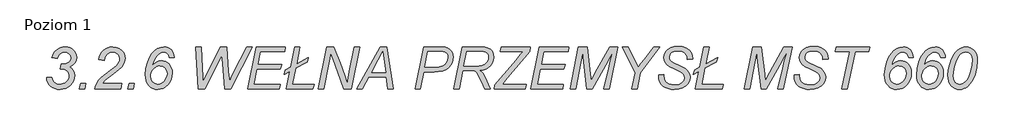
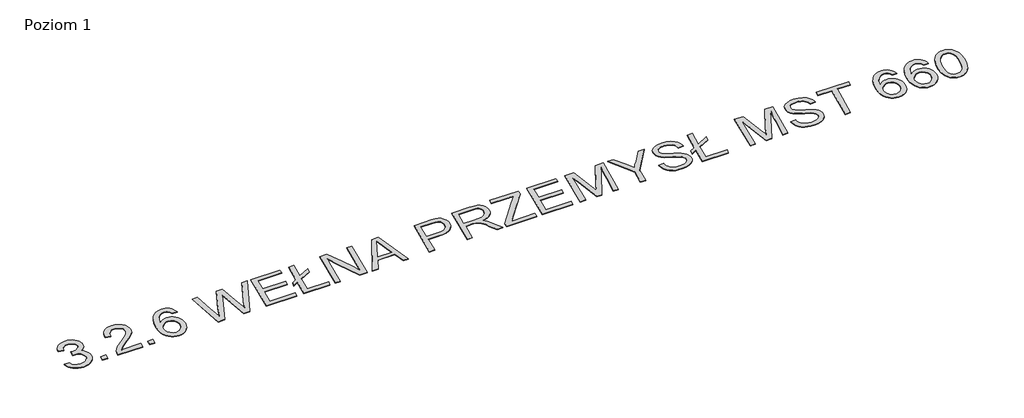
# One storey, part 2 of 2: 1 proxy.
"""IFC4 building model written with IfcOpenShell, lengths in millimetres."""

import ifcopenshell
import ifcopenshell.guid

model = None  # the IFC model being written
_history = None  # IfcOwnerHistory: only IFC2X3 demands one
_inside = {}  # id of a spatial element -> (the spatial element, [elements in it])
_under = {}  # id of a project, library or spatial element -> (it, [spatial elements below it])
_declared = {}  # id of a project -> (the project, [libraries it declares])
_typed = {}  # id of a type object -> (the type object, [elements of that type])
_made_of = {}  # id of a material, layer set ... -> (it, [elements and type objects made of it])


def new_model(schema):
    """Start an empty IFC model of exactly this schema.

    Asked for "IFC4X3", IfcOpenShell would pick the latest addendum, in which some entities
    have other attributes; the version numbers below select the first issue.
    IFC2X3 requires an IfcOwnerHistory on every rooted entity: one is made here for all.
    """
    global model, _history
    if schema == "IFC4X3":
        model = ifcopenshell.file(schema_version=(4, 3, 0, 0))
    else:
        model = ifcopenshell.file(schema=schema)
    _inside.clear()
    _under.clear()
    _declared.clear()
    _typed.clear()
    _made_of.clear()
    _history = None
    if model.schema == "IFC2X3":
        org = make("IfcOrganization", Name="unknown")
        user = make(
            "IfcPersonAndOrganization",
            ThePerson=make("IfcPerson", FamilyName="unknown"),
            TheOrganization=org,
        )
        app = make(
            "IfcApplication",
            ApplicationDeveloper=org,
            Version="unknown",
            ApplicationFullName="unknown",
            ApplicationIdentifier="unknown",
        )
        _history = make(
            "IfcOwnerHistory",
            OwningUser=user,
            OwningApplication=app,
            ChangeAction="ADDED",
            CreationDate=0,
        )
    return model


def make(cls, **values):
    """One entity of the class cls with the attributes given. An attribute that is None is left unset."""
    return model.create_entity(
        cls, **{name: value for name, value in values.items() if value is not None}
    )


def rooted(cls, **values):
    """An entity with a GlobalId (a new one), such as an element, a storey or a relation."""
    return make(cls, GlobalId=ifcopenshell.guid.new(), OwnerHistory=_history, **values)


def si_unit(unit_type, name, prefix=None):
    """IfcSIUnit, for example si_unit("LENGTHUNIT", "METRE", prefix="MILLI")."""
    return make("IfcSIUnit", UnitType=unit_type, Prefix=prefix, Name=name)


def assignment(units):
    """IfcUnitAssignment: the units of a project."""
    return None if units is None else make("IfcUnitAssignment", Units=units)


def point(xyz):
    """IfcCartesianPoint."""
    return None if xyz is None else make("IfcCartesianPoint", Coordinates=xyz)


def direction(xyz):
    """IfcDirection."""
    return None if xyz is None else make("IfcDirection", DirectionRatios=xyz)


def frame(location, z_axis=None, x_axis=None):
    """IfcAxis2Placement3D, a coordinate frame: its origin and axes. An axis left out is left unset."""
    return make(
        "IfcAxis2Placement3D",
        Location=point(location),
        Axis=direction(z_axis),
        RefDirection=direction(x_axis),
    )


def origin():
    """The frame at (0, 0, 0) with its axes left unset."""
    return frame((0.0, 0.0, 0.0))


def origin_with_axes():
    """The frame at (0, 0, 0) with the z axis (0, 0, 1) and the x axis (1, 0, 0) written out."""
    return frame((0.0, 0.0, 0.0), z_axis=(0.0, 0.0, 1.0), x_axis=(1.0, 0.0, 0.0))


def place(relative_to, where):
    """IfcLocalPlacement: puts the frame where relative to a parent placement (None: the world)."""
    return make(
        "IfcLocalPlacement", PlacementRelTo=relative_to, RelativePlacement=where
    )


def context(
    kind, dimensions, precision=None, world=None, true_north=None, identifier=None
):
    """IfcGeometricRepresentationContext, for example the 3D "Model" context."""
    return make(
        "IfcGeometricRepresentationContext",
        ContextIdentifier=identifier,
        ContextType=kind,
        CoordinateSpaceDimension=dimensions,
        Precision=precision,
        WorldCoordinateSystem=world,
        TrueNorth=true_north,
    )


def project(units=None, contexts=None):
    """IfcProject with its units and contexts."""
    return rooted(
        "IfcProject",
        Name="project",
        RepresentationContexts=contexts,
        UnitsInContext=assignment(units),
    )


def spatial(cls, under=None, at=None, **own):
    """A site, building, storey or space (cls), placed at a placement, below another one or the project."""
    s = rooted(cls, ObjectPlacement=at, **own)
    if under is not None:
        _under.setdefault(under.id(), (under, []))[1].append(s)
    return s


def polyline(points):
    """IfcPolyline through the points."""
    return make("IfcPolyline", Points=[point(p) for p in points])


def outline(outer, holes=None, kind="AREA"):
    """IfcArbitraryClosedProfileDef: a profile drawn as a closed curve; with holes, ...WithVoids."""
    if holes is None:
        return make("IfcArbitraryClosedProfileDef", ProfileType=kind, OuterCurve=outer)
    return make(
        "IfcArbitraryProfileDefWithVoids",
        ProfileType=kind,
        OuterCurve=outer,
        InnerCurves=holes,
    )


def extrude(swept, where, along, depth):
    """IfcExtrudedAreaSolid: the profile swept, set in the frame where, extruded along a direction by depth."""
    return make(
        "IfcExtrudedAreaSolid",
        SweptArea=swept,
        Position=where,
        ExtrudedDirection=direction(along),
        Depth=depth,
    )


def shape(context_of_items, identifier, shape_type, items):
    """IfcShapeRepresentation: the items that make up one representation, for example the "Body"."""
    return make(
        "IfcShapeRepresentation",
        ContextOfItems=context_of_items,
        RepresentationIdentifier=identifier,
        RepresentationType=shape_type,
        Items=items,
    )


def made_of(thing, what):
    """Note that an element or type object is made of a material, layer set ...; save() writes the relation."""
    if what is not None:
        _made_of.setdefault(what.id(), (what, []))[1].append(thing)
    return thing


def element(
    cls,
    number,
    at=None,
    inside=None,
    cuts=None,
    type_object=None,
    material=None,
    context=None,
    identifier="Body",
    shape_type=None,
    held_by="IfcProductDefinitionShape",
    body=None,
    shapes=None,
    **own,
):
    """One element of the class cls, such as IfcWall. Its Tag is "e" and its number.

    at: its placement. inside: the storey or other place that contains it. cuts: it is an
    opening in that element (IfcRelVoidsElement). A single representation is given by context,
    identifier, shape_type and body (its items); several are given by shapes. held_by: the class
    of the entity that holds the representations. save() writes the other relations.
    """
    e = rooted(cls, Tag="e%d" % number, ObjectPlacement=at, **own)
    if body is not None:
        shapes = [shape(context, identifier, shape_type, body)]
    if shapes is not None:
        e.Representation = make(held_by, Representations=shapes)
    if inside is not None:
        _inside.setdefault(inside.id(), (inside, []))[1].append(e)
    if cuts is not None:
        rooted(
            "IfcRelVoidsElement", RelatingBuildingElement=cuts, RelatedOpeningElement=e
        )
    if type_object is not None:
        _typed.setdefault(type_object.id(), (type_object, []))[1].append(e)
    return made_of(e, material)


def aggregate(whole, parts):
    """IfcRelAggregates: a whole, such as a stair, and the parts it consists of."""
    return rooted("IfcRelAggregates", RelatingObject=whole, RelatedObjects=parts)


def save(model, path):
    """Write the relations noted so far, then the file.

    IfcRelAggregates (storeys below a building ...), IfcRelContainedInSpatialStructure (elements
    in a storey), IfcRelDefinesByType, IfcRelAssociatesMaterial and IfcRelDeclares: one each for
    every whole, place, type object, material and project.
    """
    for whole, parts in _under.values():
        aggregate(whole, parts)
    for where, things in _inside.values():
        rooted(
            "IfcRelContainedInSpatialStructure",
            RelatedElements=things,
            RelatingStructure=where,
        )
    for kind, things in _typed.values():
        rooted("IfcRelDefinesByType", RelatedObjects=things, RelatingType=kind)
    for what, things in _made_of.values():
        rooted("IfcRelAssociatesMaterial", RelatedObjects=things, RelatingMaterial=what)
    for by, libraries in _declared.values():
        rooted("IfcRelDeclares", RelatingContext=by, RelatedDefinitions=libraries)
    model.write(path)


model = new_model("IFC4")

# Units and contexts
model_context = context("Model", 3, world=origin())
ifc_project = project(units=[si_unit("LENGTHUNIT", "METRE", prefix="MILLI")], contexts=[model_context])

# Site, building, storey
site = spatial("IfcSite", under=ifc_project)
building = spatial("IfcBuilding", under=site)
storey = spatial("IfcBuildingStorey", under=building, Name="Poziom 1", Elevation=0.0)

# Proxy
placement = place(None, origin())
element("IfcBuildingElementProxy", 1, Name="400 mm Arial", ObjectType="400 mm Arial", at=placement, inside=storey, context=model_context, shape_type="SweptSolid", body=[
    extrude(outline(polyline([(54935.3811978, 3434.5109693), (54984.3508948, 3434.5109693), (54993.2457811, 3406.3557846), (55008.8357432, 3387.501973), (55030.7382054, 3376.8496293), (55058.5705917, 3373.298848), (55093.1458758, 3379.2765943), (55108.5325946, 3386.748777), (55122.6520311, 3397.2098329), (55134.4521021, 3409.6017008), (55142.8807243, 3422.8663196), (55147.9378976, 3437.0036894), (55149.623622, 3452.0138102), (55144.7696921, 3476.6301691), (55130.2079023, 3496.536064), (55107.4685557, 3509.6990611), (55078.0819554, 3514.0867268), (55062.6832811, 3514.0867268), (55070.9086599, 3563.9172193), (55084.2031675, 3563.0564238), (55120.440265, 3567.2169352), (55146.7064819, 3579.6984693), (55162.6670643, 3598.2294825), (55167.9872584, 3620.5384314), (55163.4680823, 3641.0540564), (55149.9105539, 3658.0308556), (55129.8014156, 3669.4363954), (55105.6274099, 3673.238242), (55081.3577603, 3669.3527069), (55059.6226751, 3657.6961018), (55042.8132527, 3638.9379342), (55033.3205917, 3613.7477117), (54984.3508948, 3621.6861587), (54991.5929343, 3644.3328502), (55001.5548484, 3664.2596672), (55014.2366369, 3681.4666096), (55029.6383001, 3695.9536776), (55047.1680408, 3707.4399169), (55066.2340624, 3715.6443736), (55086.8363647, 3720.5670476), (55108.9749478, 3722.207939), (55131.9324821, 3720.4564593), (55152.6005396, 3715.2020204), (55170.9791204, 3706.4446222), (55187.0682243, 3694.1842647), (55200.1445441, 3679.3714096), (55209.4847726, 3662.9565185), (55215.0889097, 3644.9395914), (55216.9569554, 3625.3206283), (55212.9996874, 3597.3806426), (55201.1278834, 3573.2425033), (55181.1980775, 3552.9062107), (55153.0668039, 3536.3717647), (55173.1042092, 3520.961135), (55187.3073342, 3502.6572761), (55195.7718228, 3481.484099), (55198.593319, 3457.4655147), (55196.0617435, 3431.3905857), (55188.4670169, 3407.1089806), (55175.8091393, 3384.6206994), (55158.0881107, 3363.925742), (55136.8461895, 3346.6022335), (55113.6256343, 3334.2282988), (55088.4264452, 3326.803938), (55061.248622, 3324.3291511), (55035.2095595, 3326.2061634), (55011.8007054, 3331.8372003), (54991.0220595, 3341.2222619), (54972.873622, 3354.361348), (54957.9053455, 3370.6327732), (54946.6671826, 3389.4148518), (54939.1591334, 3410.7075838), (54935.3811978, 3434.5109693)])), origin_with_axes(), (0.0, 0.0, 1.0), 5.0),
    extrude(outline(polyline([(55242.2069554, 3330.4503632), (55253.6842281, 3379.4200602), (55302.6539251, 3379.4200602), (55292.1330917, 3330.4503632), (55242.2069554, 3330.4503632)])), origin_with_axes(), (0.0, 0.0, 1.0), 5.0),
    extrude(outline(polyline([(55388.3508948, 3330.4503632), (55397.4729355, 3362.7062818), (55409.5360273, 3389.2713859), (55425.2933664, 3412.3813528), (55445.4981485, 3434.2718594), (55531.8168039, 3502.8963859), (55584.8991902, 3545.1710071), (55602.569408, 3564.7062818), (55614.6444554, 3583.9068026), (55619.3788304, 3597.392598), (55620.9569554, 3612.0261208), (55616.067159, 3635.6382183), (55601.3977698, 3655.4006473), (55579.6029071, 3668.7788433), (55553.3366902, 3673.238242), (55526.9748294, 3668.7190658), (55504.1278834, 3655.1615374), (55486.0631343, 3631.6092174), (55474.0478645, 3597.1056662), (55425.0781675, 3603.6094541), (55430.3236398, 3629.6963386), (55438.9824052, 3652.8660829), (55451.0544637, 3673.1186871), (55466.5398152, 3690.4541511), (55484.7868855, 3704.3464333), (55505.1441003, 3714.269492), (55527.6114594, 3720.2233272), (55552.1889629, 3722.207939), (55584.8155018, 3718.6810687), (55614.2140576, 3708.1004579), (55638.5434847, 3691.1475696), (55655.9626372, 3668.503867), (55666.4356485, 3642.5963149), (55669.9266523, 3615.8518783), (55668.1572395, 3596.238893), (55662.8490008, 3576.996528), (55654.0019364, 3558.1247832), (55641.6160463, 3539.6236587), (55607.327694, 3508.0611587), (55539.2770311, 3455.8395677), (55484.9990955, 3411.8433556), (55458.1709705, 3379.4200602), (55639.3205917, 3379.4200602), (55629.6605539, 3330.4503632), (55388.3508948, 3330.4503632)])), origin_with_axes(), (0.0, 0.0, 1.0), 5.0),
    extrude(outline(polyline([(55695.1766523, 3330.4503632), (55706.6539251, 3379.4200602), (55755.623622, 3379.4200602), (55745.1027887, 3330.4503632), (55695.1766523, 3330.4503632)])), origin_with_axes(), (0.0, 0.0, 1.0), 5.0),
    extrude(outline(polyline([(55925.3916145, 3551.1009314), (55945.9072395, 3569.7514996), (55966.3272205, 3583.0460071), (55986.6037357, 3591.0083651), (56006.6889629, 3593.6624844), (56028.238738, 3591.7466167), (56047.8397679, 3585.9990138), (56065.4920524, 3576.4196755), (56081.1955917, 3563.0086018), (56094.0836126, 3546.351612), (56103.2893417, 3527.0345251), (56108.8127792, 3505.0573412), (56110.6539251, 3480.4200602), (56107.9101396, 3448.0924087), (56099.678783, 3418.1558556), (56085.9598555, 3390.6104011), (56066.7533569, 3365.456045), (56046.79964, 3347.4630289), (56024.8134895, 3334.6108746), (56000.7949052, 3326.8995819), (55974.7438872, 3324.3291511), (55951.1377674, 3326.5468949), (55929.5760368, 3333.2001265), (55910.0586954, 3344.2888457), (55892.5857432, 3359.8130526), (55878.1913304, 3379.4379934), (55867.9096069, 3402.8289143), (55861.7405728, 3429.9858154), (55859.6842281, 3460.9086965), (55864.9685557, 3520.6383367), (55880.8215387, 3582.3764996), (55899.0895311, 3626.2651123), (55921.1832811, 3661.7131473), (55945.9431059, 3688.7923376), (55972.2093228, 3707.5744162), (56000.9622821, 3718.5495583), (56033.1823342, 3722.207939), (56052.618976, 3720.6238362), (56070.1845832, 3715.871528), (56085.8791559, 3707.9510142), (56099.702694, 3696.862295), (56111.2008888, 3682.8205692), (56119.9194317, 3666.0410355), (56125.8583226, 3646.5236942), (56129.0175614, 3624.268545), (56084.3518417, 3624.268545), (56077.8360984, 3646.5894494), (56065.9403834, 3661.7131473), (56049.7646021, 3670.3569683), (56030.4086599, 3673.238242), (56008.243177, 3669.1494636), (55985.9342281, 3656.8831283), (55965.1316713, 3636.5946577), (55947.4853645, 3608.439473), (55933.927836, 3578.0605668), (55925.3916145, 3551.1009314)]), holes=[polyline([(55908.6539251, 3443.7884314), (55913.7589203, 3416.3266653), (55929.0739061, 3393.6231852), (55950.8209468, 3378.3799323), (55975.2221069, 3373.298848), (55993.8128976, 3376.3953206), (56013.4318607, 3385.6847382), (56032.0465624, 3401.2986113), (56047.624569, 3423.3684503), (56058.1693133, 3448.6064948), (56061.6842281, 3473.7249844), (56056.8063872, 3502.7409645), (56042.1728645, 3525.3248897), (56020.6529781, 3539.850813), (55995.1160463, 3544.6927874), (55979.4752733, 3542.9263634), (55964.4023862, 3537.6270914), (55935.9602698, 3516.4300033), (55924.013744, 3501.2913611), (55915.4805112, 3484.1382183), (55910.3605716, 3464.9705751), (55908.6539251, 3443.7884314)])]), origin_with_axes(), (0.0, 0.0, 1.0), 5.0),
    extrude(outline(polyline([(56355.5024099, 3330.4503632), (56331.0175614, 3722.207939), (56379.9872584, 3722.207939), (56391.1775993, 3527.0943026), (56395.4815766, 3452.205098), (56396.8205917, 3428.1984693), (56401.4115008, 3397.7836965), (56446.842372, 3497.3490374), (56561.6150993, 3722.207939), (56618.7145311, 3722.207939), (56636.0260842, 3492.5668405), (56646.2599857, 3397.7836965), (56661.7543039, 3435.3717647), (56692.3603645, 3496.392598), (56805.9853645, 3722.207939), (56860.5024099, 3722.207939), (56656.5895311, 3330.4503632), (56600.3508948, 3330.4503632), (56581.7959705, 3566.7865374), (56572.8054402, 3642.6321814), (56546.8859326, 3585.6283935), (56416.4275993, 3330.4503632), (56355.5024099, 3330.4503632)])), origin_with_axes(), (0.0, 0.0, 1.0), 5.0),
    extrude(outline(polyline([(56814.593319, 3330.4503632), (56894.1690766, 3722.207939), (57169.623622, 3722.207939), (57163.406766, 3679.3594541), (56935.2003266, 3679.3594541), (56910.3329023, 3556.9352117), (57132.8963493, 3556.9352117), (57120.6539251, 3514.0867268), (56901.6293039, 3514.0867268), (56873.031766, 3373.298848), (57118.5497584, 3373.298848), (57109.3679402, 3330.4503632), (56814.593319, 3330.4503632)])), origin_with_axes(), (0.0, 0.0, 1.0), 5.0),
    extrude(outline(polyline([(57208.7419932, 3493.0450602), (57157.3811978, 3465.1170299), (57169.623622, 3507.9655147), (57217.063016, 3533.7893783), (57255.3205917, 3722.207939), (57305.0554402, 3722.207939), (57272.9190766, 3564.0128632), (57383.8660463, 3624.268545), (57371.623622, 3581.4200602), (57264.6936978, 3523.364189), (57234.1832811, 3373.298848), (57438.9569554, 3373.298848), (57426.7145311, 3330.4503632), (57175.7448342, 3330.4503632), (57208.7419932, 3493.0450602)])), origin_with_axes(), (0.0, 0.0, 1.0), 5.0),
    extrude(outline(polyline([(57475.6842281, 3330.4503632), (57555.2599857, 3722.207939), (57622.593319, 3722.207939), (57681.8925614, 3570.612295), (57724.9323342, 3453.831045), (57746.0696448, 3379.4200602), (57767.6851751, 3490.5583177), (57812.7334705, 3722.207939), (57862.3726751, 3722.207939), (57786.2400993, 3330.4503632), (57713.9332811, 3330.4503632), (57632.9228645, 3555.5005526), (57593.4219175, 3665.0128632), (57573.8149099, 3568.3168405), (57525.4190766, 3330.4503632), (57475.6842281, 3330.4503632)])), origin_with_axes(), (0.0, 0.0, 1.0), 5.0),
    extrude(outline(polyline([(57834.6359326, 3330.4503632), (58053.8518417, 3722.207939), (58115.8291145, 3722.207939), (58177.5194554, 3330.4503632), (58128.0715387, 3330.4503632), (58112.3859326, 3440.6321814), (57949.313016, 3440.6321814), (57889.5355539, 3330.4503632), (57834.6359326, 3330.4503632)]), holes=[polyline([(57974.6586599, 3483.4806662), (58106.3603645, 3483.4806662), (58092.5876372, 3581.4200602), (58078.623622, 3679.3594541), (58035.4882054, 3599.7836965), (57974.6586599, 3483.4806662)])]), origin_with_axes(), (0.0, 0.0, 1.0), 5.0),
    extrude(outline(polyline([(58381.623622, 3330.4503632), (58460.8168039, 3722.207939), (58624.0810084, 3722.207939), (58661.1669459, 3719.7690185), (58687.6842281, 3712.4522571), (58707.0760368, 3699.2294825), (58722.7855539, 3679.0725223), (58733.1868323, 3654.0138102), (58736.6539251, 3626.0857799), (58734.1791381, 3601.5889759), (58726.7547773, 3576.6856852), (58715.5524809, 3553.7789617), (58701.7438872, 3535.2718594), (58686.5365008, 3520.9730905), (58671.1378266, 3510.691367), (58637.9493796, 3498.4011208), (58600.0504686, 3491.801689), (58561.7211599, 3489.6018783), (58463.5904781, 3489.6018783), (58431.4541145, 3330.4503632), (58381.623622, 3330.4503632)]), holes=[polyline([(58472.2940766, 3532.4503632), (58560.2865008, 3532.4503632), (58604.6533332, 3535.1762155), (58635.4148152, 3543.3537723), (58656.9227461, 3557.1145441), (58673.5289251, 3576.5900412), (58684.1454023, 3599.6043641), (58687.6842281, 3623.9816132), (58685.7713493, 3641.5322761), (58680.0327129, 3655.5441132), (58670.8030728, 3666.172546), (58658.4171826, 3673.5729958), (58638.0450235, 3677.9128395), (58604.8565766, 3679.3594541), (58502.0393417, 3679.3594541), (58472.2940766, 3532.4503632)])]), origin_with_axes(), (0.0, 0.0, 1.0), 5.0),
    extrude(outline(polyline([(58742.7751372, 3330.4503632), (58822.3508948, 3722.207939), (58987.8149099, 3722.207939), (59030.8666381, 3720.1276833), (59062.0824289, 3713.8869162), (59084.6543985, 3701.9075128), (59101.7746637, 3682.611348), (59112.5704734, 3656.6679295), (59116.1690766, 3624.7467647), (59114.2322868, 3601.349866), (59108.4219175, 3580.033223), (59098.7379686, 3560.7968357), (59085.1804402, 3543.6407041), (59067.3010013, 3528.9414262), (59044.6513209, 3517.0755999), (59017.231399, 3508.0432254), (58985.0412357, 3501.8443026), (59003.7635368, 3487.5216227), (59017.2732432, 3473.4380526), (59036.4259421, 3438.2171719), (59051.4181296, 3401.800742), (59085.467372, 3330.4503632), (59032.0024099, 3330.4503632), (58997.7618796, 3402.1833177), (58982.6262262, 3438.5758367), (58965.529872, 3469.707939), (58951.9364771, 3486.0989191), (58937.7453076, 3495.6752685), (58918.7480302, 3500.3020441), (58890.7363114, 3501.8443026), (58827.3243796, 3501.8443026), (58792.5099857, 3330.4503632), (58742.7751372, 3330.4503632)]), holes=[polyline([(58836.0279781, 3544.6927874), (58911.1084705, 3544.6927874), (58978.9200235, 3544.6927874), (59005.879659, 3549.6662723), (59027.4593228, 3558.4655147), (59044.2328787, 3571.0307373), (59056.7741902, 3587.3021624), (59064.5930823, 3606.108152), (59067.1993796, 3626.2770677), (59065.2147679, 3642.7397808), (59059.2609326, 3656.9309503), (59050.0791145, 3667.8941369), (59038.4105539, 3674.6729011), (59020.9794459, 3678.1878158), (58994.5099857, 3679.3594541), (58863.3821448, 3679.3594541), (58836.0279781, 3544.6927874)])]), origin_with_axes(), (0.0, 0.0, 1.0), 5.0),
    extrude(outline(polyline([(59122.2902887, 3330.4503632), (59128.4115008, 3367.1776359), (59325.2467281, 3601.5052874), (59366.1823342, 3649.9967647), (59390.7628266, 3679.3594541), (59355.6615008, 3679.3594541), (59342.6539251, 3679.3594541), (59326.968319, 3679.3594541), (59311.5696448, 3679.3594541), (59178.3376372, 3679.3594541), (59187.6150993, 3722.207939), (59458.9569554, 3722.207939), (59453.8878266, 3681.176689), (59243.375516, 3430.6852117), (59195.1709705, 3373.298848), (59210.0914251, 3373.298848), (59419.7429402, 3373.298848), (59410.4654781, 3330.4503632), (59122.2902887, 3330.4503632)])), origin_with_axes(), (0.0, 0.0, 1.0), 5.0),
    extrude(outline(polyline([(59465.0781675, 3330.4503632), (59544.6539251, 3722.207939), (59820.1084705, 3722.207939), (59813.8916145, 3679.3594541), (59585.6851751, 3679.3594541), (59560.8177508, 3556.9352117), (59783.3811978, 3556.9352117), (59771.1387735, 3514.0867268), (59552.1141523, 3514.0867268), (59523.5166145, 3373.298848), (59769.0346069, 3373.298848), (59759.8527887, 3330.4503632), (59465.0781675, 3330.4503632)])), origin_with_axes(), (0.0, 0.0, 1.0), 5.0),
    extrude(outline(polyline([(59831.6813872, 3330.4503632), (59908.1008948, 3722.207939), (59991.5980539, 3722.207939), (60021.2476751, 3468.9427874), (60028.0383948, 3404.7657041), (60067.9219175, 3482.8111587), (60200.3887735, 3722.207939), (60277.8603645, 3722.207939), (60194.7457811, 3330.4503632), (60144.5327129, 3330.4503632), (60190.5374478, 3518.6776359), (60205.7209232, 3590.6975223), (60231.3774099, 3673.238242), (60204.0710652, 3630.7484219), (60180.686122, 3587.2543405), (60038.4635842, 3330.4503632), (59988.250516, 3330.4503632), (59958.8878266, 3581.611348), (59948.1757054, 3673.238242), (59929.812069, 3578.8376738), (59881.3205917, 3330.4503632), (59831.6813872, 3330.4503632)])), origin_with_axes(), (0.0, 0.0, 1.0), 5.0),
    extrude(outline(polyline([(60407.7448342, 3330.4503632), (60438.1596069, 3480.4200602), (60319.8480539, 3722.207939), (60373.4086599, 3722.207939), (60430.7950235, 3609.1568026), (60467.5222963, 3529.9636208), (60490.6442186, 3565.973564), (60523.4740008, 3604.7571814), (60611.3707811, 3722.207939), (60670.5743796, 3722.207939), (60487.0336599, 3476.4986587), (60457.4796826, 3330.4503632), (60407.7448342, 3330.4503632)])), origin_with_axes(), (0.0, 0.0, 1.0), 5.0),
    extrude(outline(polyline([(60658.7145311, 3458.9958177), (60707.6842281, 3465.1170299), (60707.1103645, 3450.9617268), (60709.6927508, 3428.5093121), (60717.4399099, 3408.017598), (60731.1409042, 3390.7180005), (60751.5847963, 3377.8419352), (60777.6238588, 3369.8437107), (60808.1103645, 3367.1776359), (60849.15357, 3372.3424087), (60865.523628, 3378.7983746), (60879.1259895, 3387.8367268), (60897.4537593, 3409.9543878), (60903.563016, 3434.989189), (60900.358944, 3452.6594068), (60890.7467281, 3468.7514996), (60866.4531675, 3486.3499844), (60819.5876372, 3509.3045299), (60757.9929402, 3539.9105905), (60735.5644364, 3557.987295), (60719.9266523, 3577.5943026), (60710.7448342, 3599.4250318), (60707.6842281, 3624.1729011), (60711.6654071, 3652.770439), (60723.608944, 3678.4986587), (60743.2159516, 3699.9109456), (60770.1875425, 3715.5606852), (60802.8140813, 3725.1370346), (60839.3859326, 3728.3291511), (60881.7801088, 3724.2284172), (60916.9531675, 3711.9262155), (60944.1877792, 3692.7854721), (60962.7666145, 3668.1691132), (60973.4548247, 3641.4366321), (60977.0175614, 3615.9475223), (60977.0175614, 3607.7221435), (60928.0478645, 3603.6094541), (60925.2741902, 3630.676689), (60918.7106249, 3646.4459835), (60909.3494743, 3659.5133367), (60896.5810084, 3670.081992), (60879.795497, 3678.3551927), (60859.8896021, 3683.6992979), (60837.7599857, 3685.4806662), (60801.3674667, 3680.6506473), (60786.5785226, 3674.6131236), (60774.061122, 3666.1605905), (60761.0057243, 3649.0164143), (60756.6539251, 3627.0422193), (60758.4592044, 3613.3651359), (60763.8750425, 3601.2183556), (60774.0013446, 3589.9323708), (60789.938016, 3578.8376738), (60853.5412357, 3548.1359693), (60909.779872, 3518.8689238), (60927.9761315, 3503.2311397), (60941.438016, 3484.6283935), (60949.7590387, 3463.1563291), (60952.5327129, 3438.9105905), (60947.8222489, 3408.4599513), (60933.6908569, 3380.4243215), (60911.2503976, 3356.6448471), (60881.6127319, 3338.9626738), (60845.973409, 3327.9875318), (60805.5279781, 3324.3291511), (60774.6439523, 3326.1583414), (60746.7428218, 3331.6459124), (60721.8245868, 3340.7918641), (60699.889247, 3353.5961965), (60681.9829083, 3371.1588149), (60669.151676, 3394.5796246), (60661.3955503, 3423.8586255), (60658.7145311, 3458.9958177)])), origin_with_axes(), (0.0, 0.0, 1.0), 5.0),
    extrude(outline(polyline([(61034.499569, 3493.0450602), (60983.1387735, 3465.1170299), (60995.3811978, 3507.9655147), (61042.8205917, 3533.7893783), (61081.0781675, 3722.207939), (61130.813016, 3722.207939), (61098.6766523, 3564.0128632), (61209.623622, 3624.268545), (61197.3811978, 3581.4200602), (61090.4512735, 3523.364189), (61059.9408569, 3373.298848), (61264.7145311, 3373.298848), (61252.4721069, 3330.4503632), (61001.5024099, 3330.4503632), (61034.499569, 3493.0450602)])), origin_with_axes(), (0.0, 0.0, 1.0), 5.0),
    extrude(outline(polyline([(61459.9238114, 3330.4503632), (61536.343319, 3722.207939), (61619.8404781, 3722.207939), (61649.4900993, 3468.9427874), (61656.280819, 3404.7657041), (61696.1643417, 3482.8111587), (61828.6311978, 3722.207939), (61906.1027887, 3722.207939), (61822.9882054, 3330.4503632), (61772.7751372, 3330.4503632), (61818.779872, 3518.6776359), (61833.9633474, 3590.6975223), (61859.6198342, 3673.238242), (61832.3134895, 3630.7484219), (61808.9285463, 3587.2543405), (61666.7060084, 3330.4503632), (61616.4929402, 3330.4503632), (61587.1302508, 3581.611348), (61576.4181296, 3673.238242), (61558.0544932, 3578.8376738), (61509.563016, 3330.4503632), (61459.9238114, 3330.4503632)])), origin_with_axes(), (0.0, 0.0, 1.0), 5.0),
    extrude(outline(polyline([(61925.8054402, 3458.9958177), (61974.7751372, 3465.1170299), (61974.2012735, 3450.9617268), (61976.7836599, 3428.5093121), (61984.530819, 3408.017598), (61998.2318133, 3390.7180005), (62018.6757054, 3377.8419352), (62044.7147679, 3369.8437107), (62075.2012735, 3367.1776359), (62116.244479, 3372.3424087), (62132.614537, 3378.7983746), (62146.2168985, 3387.8367268), (62164.5446684, 3409.9543878), (62170.6539251, 3434.989189), (62167.4498531, 3452.6594068), (62157.8376372, 3468.7514996), (62133.5440766, 3486.3499844), (62086.6785463, 3509.3045299), (62025.0838493, 3539.9105905), (62002.6553455, 3557.987295), (61987.0175614, 3577.5943026), (61977.8357432, 3599.4250318), (61974.7751372, 3624.1729011), (61978.7563162, 3652.770439), (61990.6998531, 3678.4986587), (62010.3068607, 3699.9109456), (62037.2784516, 3715.5606852), (62069.9049904, 3725.1370346), (62106.4768417, 3728.3291511), (62148.8710179, 3724.2284172), (62184.0440766, 3711.9262155), (62211.2786883, 3692.7854721), (62229.8575235, 3668.1691132), (62240.5457338, 3641.4366321), (62244.1084705, 3615.9475223), (62244.1084705, 3607.7221435), (62195.1387735, 3603.6094541), (62192.3650993, 3630.676689), (62185.801534, 3646.4459835), (62176.4403834, 3659.5133367), (62163.6719175, 3670.081992), (62146.8864061, 3678.3551927), (62126.9805112, 3683.6992979), (62104.8508948, 3685.4806662), (62068.4583758, 3680.6506473), (62053.6694317, 3674.6131236), (62041.1520311, 3666.1605905), (62028.0966334, 3649.0164143), (62023.7448342, 3627.0422193), (62025.5501135, 3613.3651359), (62030.9659516, 3601.2183556), (62041.0922537, 3589.9323708), (62057.0289251, 3578.8376738), (62120.6321448, 3548.1359693), (62176.8707811, 3518.8689238), (62195.0670406, 3503.2311397), (62208.5289251, 3484.6283935), (62216.8499478, 3463.1563291), (62219.623622, 3438.9105905), (62214.913158, 3408.4599513), (62200.781766, 3380.4243215), (62178.3413067, 3356.6448471), (62148.703641, 3338.9626738), (62113.0643181, 3327.9875318), (62072.6188872, 3324.3291511), (62041.7348614, 3326.1583414), (62013.8337309, 3331.6459124), (61988.9154959, 3340.7918641), (61966.9801561, 3353.5961965), (61949.0738173, 3371.1588149), (61936.2425851, 3394.5796246), (61928.4864594, 3423.8586255), (61925.8054402, 3458.9958177)])), origin_with_axes(), (0.0, 0.0, 1.0), 5.0),
    extrude(outline(polyline([(62372.6539251, 3330.4503632), (62446.7779781, 3679.3594541), (62311.4418039, 3679.3594541), (62320.719266, 3722.207939), (62632.8054402, 3722.207939), (62623.5279781, 3679.3594541), (62496.6084705, 3679.3594541), (62422.4844175, 3330.4503632), (62372.6539251, 3330.4503632)])), origin_with_axes(), (0.0, 0.0, 1.0), 5.0),
    extrude(outline(polyline([(62836.2400993, 3551.1009314), (62856.7557243, 3569.7514996), (62877.1757054, 3583.0460071), (62897.4522205, 3591.0083651), (62917.5374478, 3593.6624844), (62939.0872229, 3591.7466167), (62958.6882527, 3585.9990138), (62976.3405373, 3576.4196755), (62992.0440766, 3563.0086018), (63004.9320974, 3546.351612), (63014.1378266, 3527.0345251), (63019.6612641, 3505.0573412), (63021.5024099, 3480.4200602), (63018.7586244, 3448.0924087), (63010.5272679, 3418.1558556), (62996.8083403, 3390.6104011), (62977.6018417, 3365.456045), (62957.6481249, 3347.4630289), (62935.6619743, 3334.6108746), (62911.64339, 3326.8995819), (62885.592372, 3324.3291511), (62861.9862522, 3326.5468949), (62840.4245217, 3333.2001265), (62820.9071803, 3344.2888457), (62803.4342281, 3359.8130526), (62789.0398152, 3379.4379934), (62778.7580917, 3402.8289143), (62772.5890576, 3429.9858154), (62770.5327129, 3460.9086965), (62775.8170406, 3520.6383367), (62791.6700235, 3582.3764996), (62809.938016, 3626.2651123), (62832.031766, 3661.7131473), (62856.7915908, 3688.7923376), (62883.0578076, 3707.5744162), (62911.8107669, 3718.5495583), (62944.030819, 3722.207939), (62963.4674608, 3720.6238362), (62981.0330681, 3715.871528), (62996.7276407, 3707.9510142), (63010.5511789, 3696.862295), (63022.0493737, 3682.8205692), (63030.7679165, 3666.0410355), (63036.7068074, 3646.5236942), (63039.8660463, 3624.268545), (62995.2003266, 3624.268545), (62988.6845832, 3646.5894494), (62976.7888682, 3661.7131473), (62960.613087, 3670.3569683), (62941.2571448, 3673.238242), (62919.0916618, 3669.1494636), (62896.7827129, 3656.8831283), (62875.9801561, 3636.5946577), (62858.3338493, 3608.439473), (62844.7763209, 3578.0605668), (62836.2400993, 3551.1009314)]), holes=[polyline([(62819.5024099, 3443.7884314), (62824.6074052, 3416.3266653), (62839.922391, 3393.6231852), (62861.6694317, 3378.3799323), (62886.0705917, 3373.298848), (62904.6613825, 3376.3953206), (62924.2803455, 3385.6847382), (62942.8950472, 3401.2986113), (62958.4730539, 3423.3684503), (62969.0177982, 3448.6064948), (62972.5327129, 3473.7249844), (62967.654872, 3502.7409645), (62953.0213493, 3525.3248897), (62931.5014629, 3539.850813), (62905.9645311, 3544.6927874), (62890.3237582, 3542.9263634), (62875.2508711, 3537.6270914), (62846.8087546, 3516.4300033), (62834.8622288, 3501.2913611), (62826.3289961, 3484.1382183), (62821.2090565, 3464.9705751), (62819.5024099, 3443.7884314)])]), origin_with_axes(), (0.0, 0.0, 1.0), 5.0),
    extrude(outline(polyline([(63136.1794932, 3551.1009314), (63156.6951182, 3569.7514996), (63177.1150993, 3583.0460071), (63197.3916145, 3591.0083651), (63217.4768417, 3593.6624844), (63239.0266168, 3591.7466167), (63258.6276467, 3585.9990138), (63276.2799312, 3576.4196755), (63291.9834705, 3563.0086018), (63304.8714914, 3546.351612), (63314.0772205, 3527.0345251), (63319.600658, 3505.0573412), (63321.4418039, 3480.4200602), (63318.6980183, 3448.0924087), (63310.4666618, 3418.1558556), (63296.7477343, 3390.6104011), (63277.5412357, 3365.456045), (63257.5875188, 3347.4630289), (63235.6013682, 3334.6108746), (63211.582784, 3326.8995819), (63185.531766, 3324.3291511), (63161.9256462, 3326.5468949), (63140.3639156, 3333.2001265), (63120.8465742, 3344.2888457), (63103.373622, 3359.8130526), (63088.9792092, 3379.4379934), (63078.6974857, 3402.8289143), (63072.5284516, 3429.9858154), (63070.4721069, 3460.9086965), (63075.7564345, 3520.6383367), (63091.6094175, 3582.3764996), (63109.8774099, 3626.2651123), (63131.9711599, 3661.7131473), (63156.7309847, 3688.7923376), (63182.9972016, 3707.5744162), (63211.7501609, 3718.5495583), (63243.9702129, 3722.207939), (63263.4068548, 3720.6238362), (63280.972462, 3715.871528), (63296.6670347, 3707.9510142), (63310.4905728, 3696.862295), (63321.9887676, 3682.8205692), (63330.7073105, 3666.0410355), (63336.6462013, 3646.5236942), (63339.8054402, 3624.268545), (63295.1397205, 3624.268545), (63288.6239771, 3646.5894494), (63276.7282622, 3661.7131473), (63260.5524809, 3670.3569683), (63241.1965387, 3673.238242), (63219.0310557, 3669.1494636), (63196.7221069, 3656.8831283), (63175.9195501, 3636.5946577), (63158.2732432, 3608.439473), (63144.7157148, 3578.0605668), (63136.1794932, 3551.1009314)]), holes=[polyline([(63119.4418039, 3443.7884314), (63124.5467991, 3416.3266653), (63139.8617849, 3393.6231852), (63161.6088256, 3378.3799323), (63186.0099857, 3373.298848), (63204.6007764, 3376.3953206), (63224.2197395, 3385.6847382), (63242.8344412, 3401.2986113), (63258.4124478, 3423.3684503), (63268.9571921, 3448.6064948), (63272.4721069, 3473.7249844), (63267.594266, 3502.7409645), (63252.9607432, 3525.3248897), (63231.4408569, 3539.850813), (63205.9039251, 3544.6927874), (63190.2631521, 3542.9263634), (63175.190265, 3537.6270914), (63146.7481485, 3516.4300033), (63134.8016227, 3501.2913611), (63126.26839, 3484.1382183), (63121.1484504, 3464.9705751), (63119.4418039, 3443.7884314)])]), origin_with_axes(), (0.0, 0.0, 1.0), 5.0),
    extrude(outline(polyline([(63364.2902887, 3458.8045299), (63368.0682243, 3508.6469778), (63379.4020311, 3559.2784882), (63395.350658, 3605.1875791), (63412.9730539, 3640.8627685), (63431.7790434, 3668.0973802), (63451.2784516, 3688.6847382), (63470.9571921, 3703.6649702), (63490.3011789, 3714.0782041), (63510.5418275, 3720.1755052), (63532.9105539, 3722.207939), (63554.7831272, 3720.1306721), (63574.7786883, 3713.8988717), (63592.8972371, 3703.5125377), (63609.1387735, 3688.97167), (63622.5289251, 3670.5094008), (63632.093319, 3648.3588623), (63637.8319554, 3622.5200542), (63639.7448342, 3592.9929768), (63634.4365955, 3528.7680715), (63618.5118796, 3465.2126738), (63604.7989298, 3430.0635261), (63588.6231485, 3399.6009314), (63569.9845359, 3373.8248897), (63548.8830917, 3352.7354011), (63531.165052, 3340.3076667), (63512.2514629, 3331.4307136), (63492.1423247, 3326.1045417), (63470.8376372, 3324.3291511), (63449.2848732, 3326.4811397), (63429.4835889, 3332.9371056), (63411.4337842, 3343.6970488), (63395.1354592, 3358.7609693), (63381.6406971, 3377.9256236), (63372.0015813, 3400.9877685), (63366.2181119, 3427.9474039), (63364.2902887, 3458.8045299)]), holes=[polyline([(63413.2599857, 3451.7268783), (63416.2488588, 3421.9098802), (63425.2154781, 3399.4096435), (63434.3315411, 3387.9861705), (63445.4202603, 3379.8265469), (63458.4816358, 3374.9307728), (63473.5156675, 3373.298848), (63500.2003266, 3379.2048613), (63524.3982432, 3396.9229011), (63539.9164724, 3415.4569032), (63553.3783569, 3437.8704626), (63564.7838967, 3464.1635793), (63574.1330917, 3494.3362533), (63586.6146258, 3552.6671009), (63590.7751372, 3599.2098329), (63586.7461362, 3633.031921), (63574.6591334, 3655.878867), (63555.9726987, 3668.8983982), (63532.1454023, 3673.238242), (63513.5665671, 3670.9427874), (63496.2789251, 3664.0564238), (63479.9955444, 3651.5748897), (63464.4294932, 3632.4939238), (63444.224711, 3593.1842647), (63426.8414251, 3538.1889996), (63416.6553455, 3489.7453443), (63413.2599857, 3451.7268783)])]), origin_with_axes(), (0.0, 0.0, 1.0), 5.0),
])

save(model, "model.ifc")
